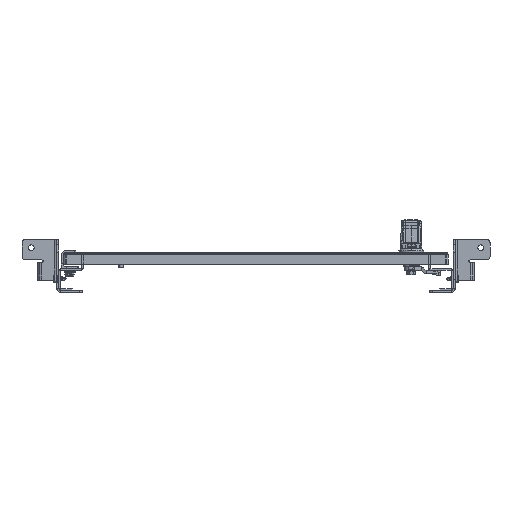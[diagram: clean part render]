
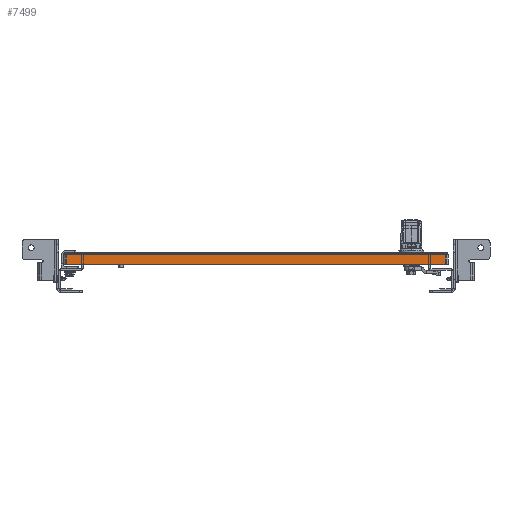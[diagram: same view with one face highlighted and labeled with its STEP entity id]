
A CAD part, front view. The second image highlights one B-rep face of the part: STEP entity #7499.
In plain terms, the highlighted planar face has unit normal (0, -1, 0).
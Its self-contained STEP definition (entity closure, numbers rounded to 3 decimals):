
#667 = CARTESIAN_POINT ( 'NONE',  ( -234., -860., 12. ) ) ;
#2116 = CARTESIAN_POINT ( 'NONE',  ( -231., -860., 12. ) ) ;
#2355 = CARTESIAN_POINT ( 'NONE',  ( -231., -860., 15. ) ) ;
#2946 = VECTOR ( 'NONE', #15523, 1000. ) ;
#3253 = LINE ( 'NONE', #27082, #48564 ) ;
#5759 = DIRECTION ( 'NONE',  ( -1., 0., 0. ) ) ;
#7423 = VERTEX_POINT ( 'NONE', #2116 ) ;
#7499 = ADVANCED_FACE ( 'NONE', ( #41189 ), #29572, .F. ) ;
#7990 = LINE ( 'NONE', #48055, #2946 ) ;
#10515 = DIRECTION ( 'NONE',  ( 0., 0., 1. ) ) ;
#14191 = AXIS2_PLACEMENT_3D ( 'NONE', #33448, #24931, #5759 ) ;
#15523 = DIRECTION ( 'NONE',  ( 1., 0., 0. ) ) ;
#16745 = DIRECTION ( 'NONE',  ( -1., 0., 0. ) ) ;
#16997 = LINE ( 'NONE', #667, #46154 ) ;
#17938 = VERTEX_POINT ( 'NONE', #49369 ) ;
#18605 = EDGE_CURVE ( 'NONE', #42989, #7423, #16997, .T. ) ;
#19190 = EDGE_CURVE ( 'NONE', #17938, #42989, #3253, .T. ) ;
#24109 = ORIENTED_EDGE ( 'NONE', *, *, #25884, .T. ) ;
#24931 = DIRECTION ( 'NONE',  ( 0., 1., 0. ) ) ;
#25884 = EDGE_CURVE ( 'NONE', #31879, #17938, #7990, .T. ) ;
#26844 = ORIENTED_EDGE ( 'NONE', *, *, #19190, .T. ) ;
#27082 = CARTESIAN_POINT ( 'NONE',  ( 231., -860., 15. ) ) ;
#29025 = ORIENTED_EDGE ( 'NONE', *, *, #34782, .T. ) ;
#29572 = PLANE ( 'NONE',  #14191 ) ;
#30742 = CARTESIAN_POINT ( 'NONE',  ( -231., -860., 0. ) ) ;
#31879 = VERTEX_POINT ( 'NONE', #30742 ) ;
#33448 = CARTESIAN_POINT ( 'NONE',  ( 234., -860., 15. ) ) ;
#34714 = VECTOR ( 'NONE', #42182, 1000. ) ;
#34782 = EDGE_CURVE ( 'NONE', #7423, #31879, #37795, .T. ) ;
#35621 = EDGE_LOOP ( 'NONE', ( #24109, #26844, #38279, #29025 ) ) ;
#37795 = LINE ( 'NONE', #2355, #34714 ) ;
#38279 = ORIENTED_EDGE ( 'NONE', *, *, #18605, .T. ) ;
#41189 = FACE_OUTER_BOUND ( 'NONE', #35621, .T. ) ;
#42182 = DIRECTION ( 'NONE',  ( 0., 0., -1. ) ) ;
#42808 = CARTESIAN_POINT ( 'NONE',  ( 231., -860., 12. ) ) ;
#42989 = VERTEX_POINT ( 'NONE', #42808 ) ;
#46154 = VECTOR ( 'NONE', #16745, 1000. ) ;
#48055 = CARTESIAN_POINT ( 'NONE',  ( 234., -860., 0. ) ) ;
#48564 = VECTOR ( 'NONE', #10515, 1000. ) ;
#49369 = CARTESIAN_POINT ( 'NONE',  ( 231., -860., 0. ) ) ;
